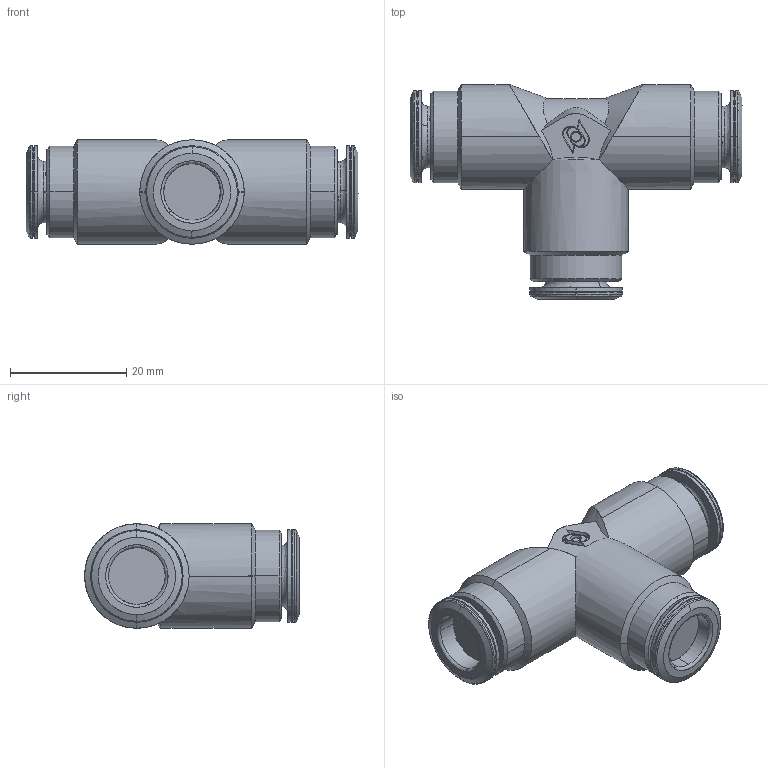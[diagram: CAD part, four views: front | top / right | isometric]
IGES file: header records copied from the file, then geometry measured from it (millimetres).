
Start section: SolidWorks IGES file using analytic representation for surfaces
Global section: file name: K:\Disegni\Disegni Esecutivi\ALPHA TECHNOLOGIES\84000\Assiemi-84000\84230\84230_iges\84230H0005.IGS; native system: SolidWorks 2016; preprocessor: SolidWorks 2016; author: cad07; date: 191212.094928; units: millimetre
Bounding box: 57.22 x 37 x 18 mm (x, y, z)
Surface area: 5450.3 mm2 (no closed solid volume)
Topology: 0 solids, 0 shells, 172 faces, 2058 edges, 2058 vertices
Faces by surface type: revolution 90, bspline 82
